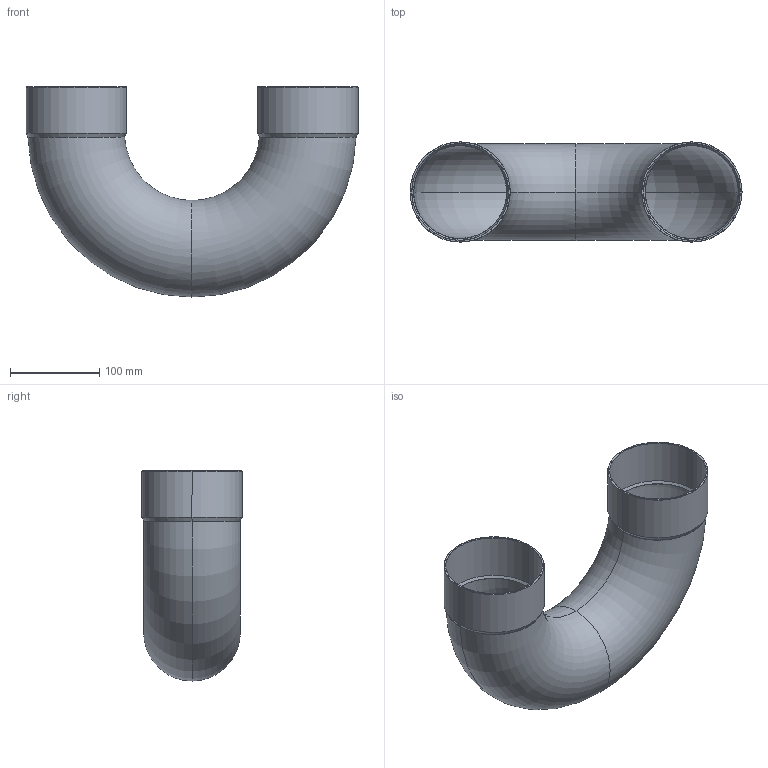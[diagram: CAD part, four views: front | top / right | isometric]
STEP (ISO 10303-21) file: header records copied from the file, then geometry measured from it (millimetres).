
FILE_DESCRIPTION((''),'2;1');
FILE_NAME('C:\sanha_work\5130\f\15060108.stp','2005-10-21T17:22:33',('Kris'),(''),'Autodesk Inventor 8','Autodesk Inventor 8','');
FILE_SCHEMA(('AUTOMOTIVE_DESIGN { 1 0 10303 214 1 1 1 1 }'));
Length unit declared in the file: millimetre
Products named in the file (1): 15060108
Bounding box: 371.4 x 112.2 x 235 mm (x, y, z)
Volume: 359898.8 mm3; surface area: 344805.8 mm2
Topology: 1 solids, 1 shells, 38 faces, 76 edges, 44 vertices
Faces by surface type: cone 12, bspline 11, torus 8, cylinder 4, plane 3
Entity records: 1363 total; most frequent: CARTESIAN_POINT 568, DIRECTION 168, ORIENTED_EDGE 152, EDGE_CURVE 76, AXIS2_PLACEMENT_3D 72, VERTEX_POINT 44, CIRCLE 44, EDGE_LOOP 44
